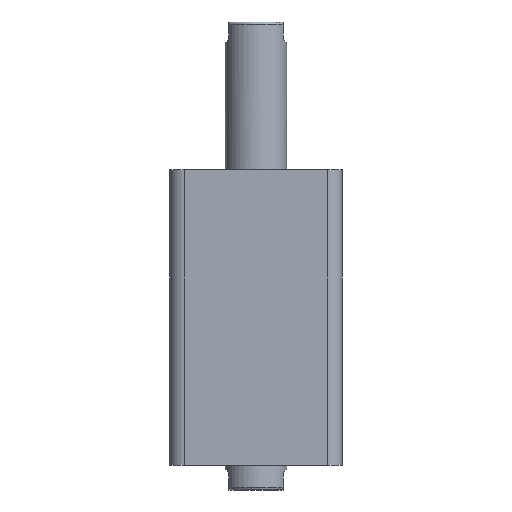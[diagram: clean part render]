
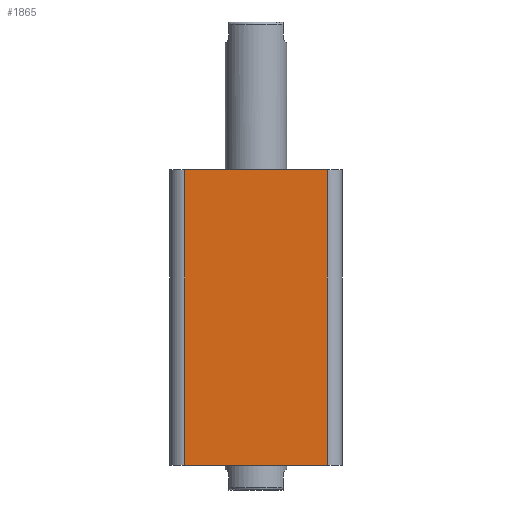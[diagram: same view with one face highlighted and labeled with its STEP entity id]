
A CAD part, front view. The second image highlights one B-rep face of the part: STEP entity #1865.
In plain terms, the highlighted planar face has unit normal (0, -1, 0).
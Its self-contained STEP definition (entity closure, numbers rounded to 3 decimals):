
#278 = CARTESIAN_POINT ( 'NONE',  ( -35., -35., 120. ) ) ;
#280 = PLANE ( 'NONE',  #1383 ) ;
#282 = DIRECTION ( 'NONE',  ( 0., 1., 0. ) ) ;
#283 = DIRECTION ( 'NONE',  ( 0., 0., 1. ) ) ;
#321 = VERTEX_POINT ( 'NONE', #647 ) ;
#374 = LINE ( 'NONE', #748, #387 ) ;
#380 = LINE ( 'NONE', #763, #383 ) ;
#382 = LINE ( 'NONE', #765, #385 ) ;
#383 = VECTOR ( 'NONE', #764, 1000. ) ;
#385 = VECTOR ( 'NONE', #766, 1000. ) ;
#386 = LINE ( 'NONE', #768, #389 ) ;
#387 = VECTOR ( 'NONE', #767, 1000. ) ;
#389 = VECTOR ( 'NONE', #769, 1000. ) ;
#572 = FACE_OUTER_BOUND ( 'NONE', #666, .T. ) ;
#647 = CARTESIAN_POINT ( 'NONE',  ( 29., -35., 120. ) ) ;
#658 = VERTEX_POINT ( 'NONE', #3250 ) ;
#666 = EDGE_LOOP ( 'NONE', ( #2996, #2997, #2998, #2999 ) ) ;
#668 = VERTEX_POINT ( 'NONE', #3247 ) ;
#748 = CARTESIAN_POINT ( 'NONE',  ( -35., -35., 0. ) ) ;
#763 = CARTESIAN_POINT ( 'NONE',  ( -35., -35., 120. ) ) ;
#764 = DIRECTION ( 'NONE',  ( 1., 0., 0. ) ) ;
#765 = CARTESIAN_POINT ( 'NONE',  ( -29., -35., 120. ) ) ;
#766 = DIRECTION ( 'NONE',  ( 0., 0., -1. ) ) ;
#767 = DIRECTION ( 'NONE',  ( 1., 0., 0. ) ) ;
#768 = CARTESIAN_POINT ( 'NONE',  ( 29., -35., 120. ) ) ;
#769 = DIRECTION ( 'NONE',  ( 0., 0., 1. ) ) ;
#1196 = EDGE_CURVE ( 'NONE', #2010, #321, #380, .T. ) ;
#1197 = EDGE_CURVE ( 'NONE', #2010, #668, #382, .T. ) ;
#1198 = EDGE_CURVE ( 'NONE', #668, #658, #374, .T. ) ;
#1199 = EDGE_CURVE ( 'NONE', #658, #321, #386, .T. ) ;
#1383 = AXIS2_PLACEMENT_3D ( 'NONE', #278, #282, #283 ) ;
#1865 = ADVANCED_FACE ( 'NONE', ( #572 ), #280, .F. ) ;
#2010 = VERTEX_POINT ( 'NONE', #2238 ) ;
#2238 = CARTESIAN_POINT ( 'NONE',  ( -29., -35., 120. ) ) ;
#2996 = ORIENTED_EDGE ( 'NONE', *, *, #1196, .F. ) ;
#2997 = ORIENTED_EDGE ( 'NONE', *, *, #1197, .T. ) ;
#2998 = ORIENTED_EDGE ( 'NONE', *, *, #1198, .T. ) ;
#2999 = ORIENTED_EDGE ( 'NONE', *, *, #1199, .T. ) ;
#3247 = CARTESIAN_POINT ( 'NONE',  ( -29., -35., 0. ) ) ;
#3250 = CARTESIAN_POINT ( 'NONE',  ( 29., -35., 0. ) ) ;
